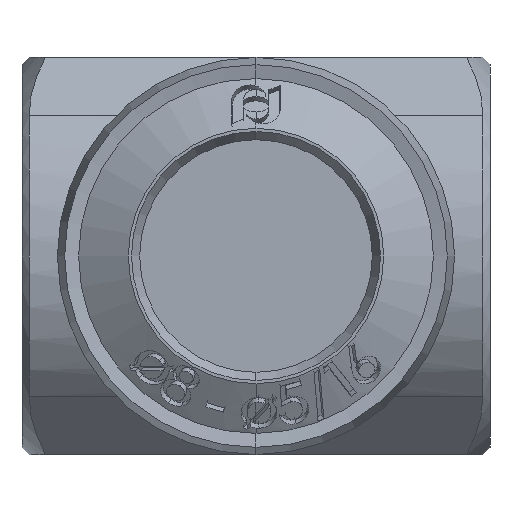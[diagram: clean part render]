
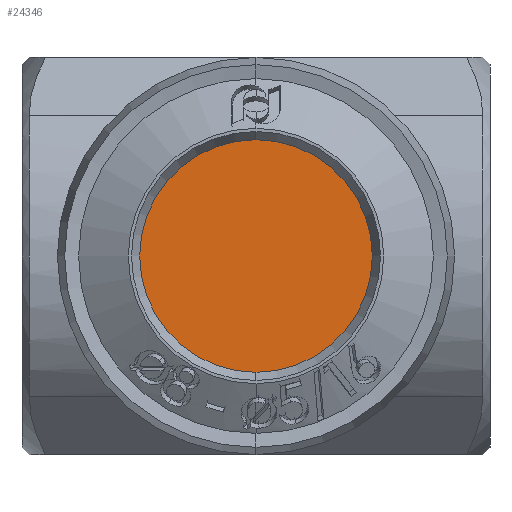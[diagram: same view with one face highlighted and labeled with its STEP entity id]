
A CAD part, left-side view. The second image highlights one B-rep face of the part: STEP entity #24346.
In plain terms, the highlighted planar face has unit normal (-1, 0, 0).
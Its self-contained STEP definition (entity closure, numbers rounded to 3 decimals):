
#665 = CIRCLE ( 'NONE', #5711, 4.1 ) ;
#3958 = ORIENTED_EDGE ( 'NONE', *, *, #4244, .F. ) ;
#3959 = ORIENTED_EDGE ( 'NONE', *, *, #14202, .F. ) ;
#4137 = VERTEX_POINT ( 'NONE', #20954 ) ;
#4141 = VERTEX_POINT ( 'NONE', #20958 ) ;
#4244 = EDGE_CURVE ( 'NONE', #4137, #4141, #665, .T. ) ;
#5378 = EDGE_LOOP ( 'NONE', ( #3958, #3959 ) ) ;
#5711 = AXIS2_PLACEMENT_3D ( 'NONE', #21073, #21074, #21075 ) ;
#7043 = CARTESIAN_POINT ( 'NONE',  ( -19., 8.25, 0. ) ) ;
#7044 = DIRECTION ( 'NONE',  ( 1., 0., 0. ) ) ;
#7045 = DIRECTION ( 'NONE',  ( 0., 0., -1. ) ) ;
#12956 = CIRCLE ( 'NONE', #13127, 4.1 ) ;
#13127 = AXIS2_PLACEMENT_3D ( 'NONE', #7043, #7044, #7045 ) ;
#13894 = FACE_OUTER_BOUND ( 'NONE', #5378, .T. ) ;
#14202 = EDGE_CURVE ( 'NONE', #4141, #4137, #12956, .T. ) ;
#15682 = AXIS2_PLACEMENT_3D ( 'NONE', #17548, #17549, #17550 ) ;
#17540 = PLANE ( 'NONE',  #15682 ) ;
#17548 = CARTESIAN_POINT ( 'NONE',  ( -19., 8.25, 0. ) ) ;
#17549 = DIRECTION ( 'NONE',  ( 1., 0., 0. ) ) ;
#17550 = DIRECTION ( 'NONE',  ( 0., 0., 1. ) ) ;
#20954 = CARTESIAN_POINT ( 'NONE',  ( -19., 8.25, 4.1 ) ) ;
#20958 = CARTESIAN_POINT ( 'NONE',  ( -19., 8.25, -4.1 ) ) ;
#21073 = CARTESIAN_POINT ( 'NONE',  ( -19., 8.25, 0. ) ) ;
#21074 = DIRECTION ( 'NONE',  ( 1., 0., 0. ) ) ;
#21075 = DIRECTION ( 'NONE',  ( 0., 0., -1. ) ) ;
#24346 = ADVANCED_FACE ( 'NONE', ( #13894 ), #17540, .F. ) ;
